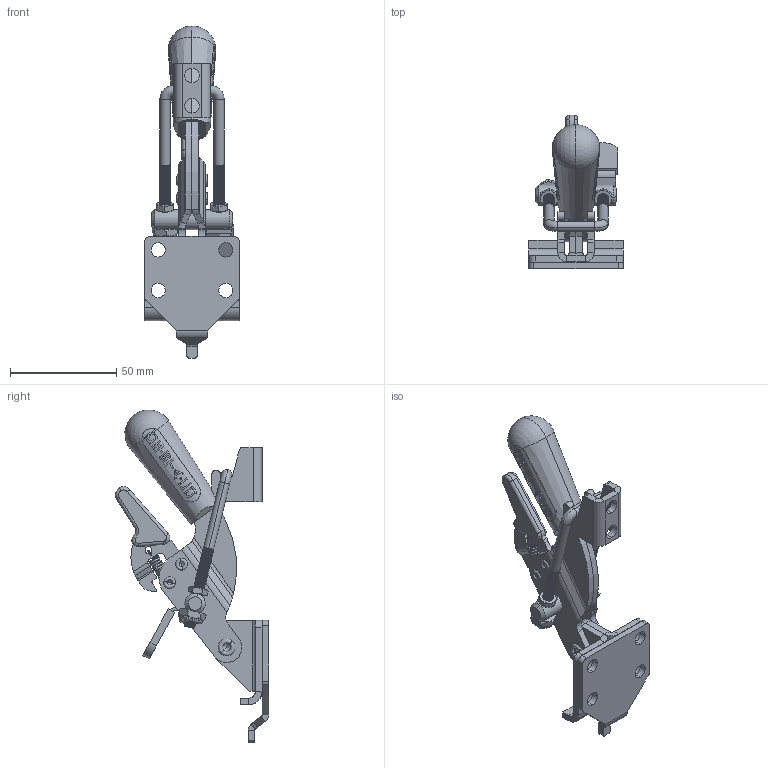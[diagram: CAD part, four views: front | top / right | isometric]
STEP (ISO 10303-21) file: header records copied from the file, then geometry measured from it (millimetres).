
FILE_DESCRIPTION((''),'2;1');
FILE_NAME('001_DESTACO_323_331_341_ASM','2024-11-20T',('SYSTEM'),(''),'PRO/ENGINEER BY PARAMETRIC TECHNOLOGY CORPORATION, 2016360','PRO/ENGINEER BY PARAMETRIC TECHNOLOGY CORPORATION, 2016360','');
FILE_SCHEMA(('AUTOMOTIVE_DESIGN { 1 0 10303 214 1 1 1 1 }'));
Products named in the file (30): 331B331004; 331BKNURLED_BUSHINGS_331012; 331BA331-232_ASM; 331BROLLED_RIVET_MODEL__184; 331B331003; 331BB331_B331_ASM; 331-BODY_ASM; 331HERGONOMIC_GRIP_207301; 331H331008_CLINCHED_HANDLE; 331H331009_CLINCHED_HANDLE; 331HROLLED_RIVET_MOD_; 331HH331_H331_ASM; 331-HANDLE_ASM; 331CHEX_JAM_NUT_M5; 331C331007_331907; 331CNYLON_INSERT_L15; 331C331006_331906; 331_ARI_S; 331-CLAMP_ASM; ARI323; 331L331005; 331-LATCH_ASM; 331RA331204_A331204; 331R331917-MODEL; 331RB331204_B331204_ASM; 331R102119_102119; 331-R-TOG_ASM; 31EX331203; 331-R-EX-BODY_ASM; 001_DESTACO_323_331_341_ASM
Assembly tree (33 placements, depth 5):
  001_DESTACO_323_331_341_ASM
    331-BODY_ASM
      331BB331_B331_ASM
        331B331004
        331BA331-232_ASM
          331BKNURLED_BUSHINGS_331012
        331BROLLED_RIVET_MODEL__184
        331BKNURLED_BUSHINGS_331012
        331B331003
    331-HANDLE_ASM
      331HH331_H331_ASM
        331HERGONOMIC_GRIP_207301
        331H331008_CLINCHED_HANDLE
        331H331009_CLINCHED_HANDLE
        331HROLLED_RIVET_MOD_  x2
    331-CLAMP_ASM
      331CHEX_JAM_NUT_M5  x2
      331C331007_331907
      331CNYLON_INSERT_L15  x2
      331C331006_331906
      331_ARI_S
    ARI323
    331-LATCH_ASM
      331L331005
    331-R-TOG_ASM
      331RB331204_B331204_ASM
        331RA331204_A331204
        331R331917-MODEL
      331R102119_102119
    331-R-EX-BODY_ASM
      31EX331203
Bounding box: 44.45 x 72.04 x 156.09 mm (x, y, z)
Volume: 53405.6 mm3; surface area: 42873.2 mm2
Topology: 23 solids, 23 shells, 1429 faces, 3233 edges, 1875 vertices
Faces by surface type: cone 700, plane 379, cylinder 272, torus 56, bspline 16, sphere 6
Entity records: 78918 total; most frequent: CARTESIAN_POINT 37061, DIRECTION 6823, ORIENTED_EDGE 6094, PRESENTATION_STYLE_ASSIGNMENT 3104, STYLED_ITEM 3066, CURVE_STYLE 3047, EDGE_CURVE 3047, AXIS2_PLACEMENT_3D 2721
